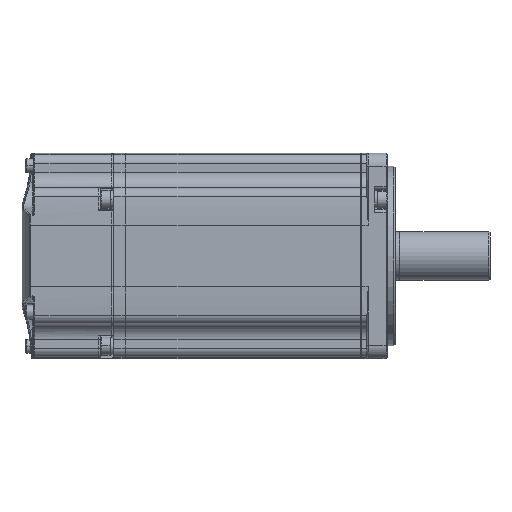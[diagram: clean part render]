
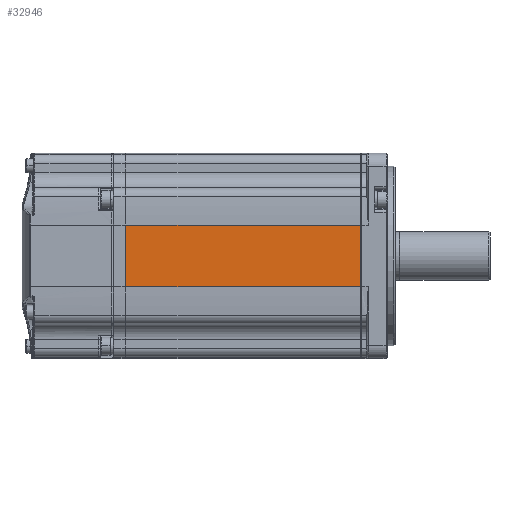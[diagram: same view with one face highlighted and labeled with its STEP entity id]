
A CAD part, top view. The second image highlights one B-rep face of the part: STEP entity #32946.
In plain terms, the highlighted planar face has unit normal (0, 0, 1).
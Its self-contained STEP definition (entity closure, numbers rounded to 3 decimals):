
#134 = DIRECTION ( 'NONE',  ( 0., 0., -1. ) ) ;
#836 = LINE ( 'NONE', #2042, #19037 ) ;
#2042 = CARTESIAN_POINT ( 'NONE',  ( -24.908, 5.099, 249.001 ) ) ;
#2464 = EDGE_CURVE ( 'NONE', #32476, #26579, #22560, .T. ) ;
#2854 = DIRECTION ( 'NONE',  ( 1., 0., 0. ) ) ;
#5275 = ORIENTED_EDGE ( 'NONE', *, *, #8444, .F. ) ;
#6063 = CARTESIAN_POINT ( 'NONE',  ( 66.592, 17.099, 249.001 ) ) ;
#7187 = VECTOR ( 'NONE', #36420, 1000. ) ;
#7444 = EDGE_CURVE ( 'NONE', #35368, #26579, #14136, .T. ) ;
#7473 = VERTEX_POINT ( 'NONE', #44540 ) ;
#8444 = EDGE_CURVE ( 'NONE', #7473, #32476, #43814, .T. ) ;
#9712 = FACE_OUTER_BOUND ( 'NONE', #42192, .T. ) ;
#13195 = CARTESIAN_POINT ( 'NONE',  ( -57.408, -6.901, 249.001 ) ) ;
#14136 = LINE ( 'NONE', #13195, #15222 ) ;
#15222 = VECTOR ( 'NONE', #2854, 1000. ) ;
#17203 = CARTESIAN_POINT ( 'NONE',  ( -57.408, 5.099, 249.001 ) ) ;
#19037 = VECTOR ( 'NONE', #25994, 1000. ) ;
#19739 = CARTESIAN_POINT ( 'NONE',  ( -24.908, -6.901, 249.001 ) ) ;
#22560 = LINE ( 'NONE', #31819, #26274 ) ;
#24108 = DIRECTION ( 'NONE',  ( -1., 0., 0. ) ) ;
#25376 = AXIS2_PLACEMENT_3D ( 'NONE', #17203, #134, #24108 ) ;
#25994 = DIRECTION ( 'NONE',  ( 0., -1., 0. ) ) ;
#26274 = VECTOR ( 'NONE', #42334, 1000. ) ;
#26579 = VERTEX_POINT ( 'NONE', #30179 ) ;
#27632 = ORIENTED_EDGE ( 'NONE', *, *, #2464, .F. ) ;
#29284 = CARTESIAN_POINT ( 'NONE',  ( -57.408, 17.099, 249.001 ) ) ;
#30179 = CARTESIAN_POINT ( 'NONE',  ( 66.592, -6.901, 249.001 ) ) ;
#30617 = EDGE_CURVE ( 'NONE', #7473, #35368, #836, .T. ) ;
#30657 = ORIENTED_EDGE ( 'NONE', *, *, #30617, .T. ) ;
#31819 = CARTESIAN_POINT ( 'NONE',  ( 66.592, 5.099, 249.001 ) ) ;
#32370 = ORIENTED_EDGE ( 'NONE', *, *, #7444, .T. ) ;
#32476 = VERTEX_POINT ( 'NONE', #6063 ) ;
#32946 = ADVANCED_FACE ( 'NONE', ( #9712 ), #41335, .F. ) ;
#35368 = VERTEX_POINT ( 'NONE', #19739 ) ;
#36420 = DIRECTION ( 'NONE',  ( 1., 0., 0. ) ) ;
#41335 = PLANE ( 'NONE',  #25376 ) ;
#42192 = EDGE_LOOP ( 'NONE', ( #5275, #30657, #32370, #27632 ) ) ;
#42334 = DIRECTION ( 'NONE',  ( 0., -1., 0. ) ) ;
#43814 = LINE ( 'NONE', #29284, #7187 ) ;
#44540 = CARTESIAN_POINT ( 'NONE',  ( -24.908, 17.099, 249.001 ) ) ;
